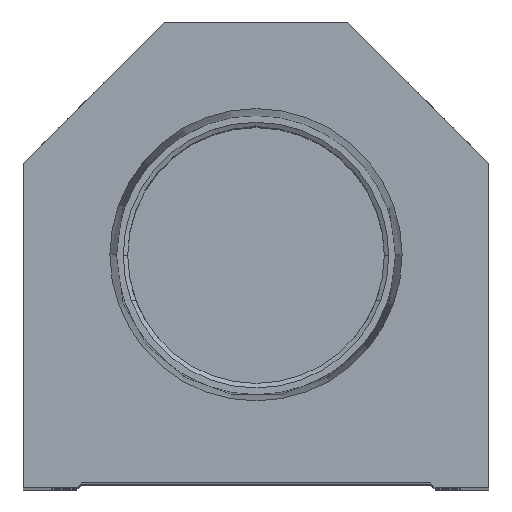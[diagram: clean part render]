
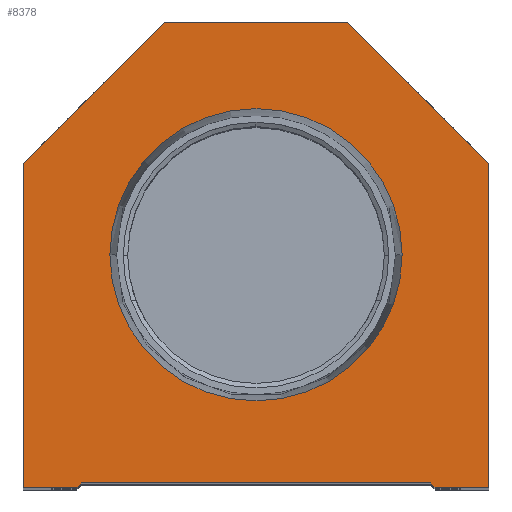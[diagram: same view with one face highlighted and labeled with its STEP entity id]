
A CAD part, top view. The second image highlights one B-rep face of the part: STEP entity #8378.
In plain terms, the highlighted planar face has unit normal (0, 0, 1).
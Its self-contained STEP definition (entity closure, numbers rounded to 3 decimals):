
#7 = VECTOR ( 'NONE', #3842, 1000. ) ;
#13 = ORIENTED_EDGE ( 'NONE', *, *, #9021, .T. ) ;
#217 = DIRECTION ( 'NONE',  ( 1., 0., 0. ) ) ;
#419 = EDGE_LOOP ( 'NONE', ( #22900, #17515, #16317, #14589, #13, #17213, #17950, #11608, #2583, #5436 ) ) ;
#487 = DIRECTION ( 'NONE',  ( -0.707, 0.707, 0. ) ) ;
#591 = VERTEX_POINT ( 'NONE', #15355 ) ;
#605 = LINE ( 'NONE', #22655, #4710 ) ;
#654 = LINE ( 'NONE', #23843, #5471 ) ;
#1038 = EDGE_CURVE ( 'NONE', #591, #1221, #14175, .T. ) ;
#1221 = VERTEX_POINT ( 'NONE', #18141 ) ;
#1441 = CARTESIAN_POINT ( 'NONE',  ( -25.4, 35.4, 0. ) ) ;
#1751 = DIRECTION ( 'NONE',  ( 0., 0., 1. ) ) ;
#2270 = FACE_BOUND ( 'NONE', #8041, .T. ) ;
#2327 = AXIS2_PLACEMENT_3D ( 'NONE', #8655, #20970, #4451 ) ;
#2583 = ORIENTED_EDGE ( 'NONE', *, *, #2643, .T. ) ;
#2643 = EDGE_CURVE ( 'NONE', #17086, #8966, #22090, .T. ) ;
#2841 = VERTEX_POINT ( 'NONE', #9145 ) ;
#2927 = VERTEX_POINT ( 'NONE', #5891 ) ;
#3312 = LINE ( 'NONE', #15862, #5505 ) ;
#3802 = DIRECTION ( 'NONE',  ( 0., -1., 0. ) ) ;
#3842 = DIRECTION ( 'NONE',  ( 1., 0., 0. ) ) ;
#4310 = DIRECTION ( 'NONE',  ( 0., 0., 1. ) ) ;
#4451 = DIRECTION ( 'NONE',  ( 1., 0., 0. ) ) ;
#4710 = VECTOR ( 'NONE', #487, 1000. ) ;
#5343 = VECTOR ( 'NONE', #9079, 1000. ) ;
#5436 = ORIENTED_EDGE ( 'NONE', *, *, #9284, .T. ) ;
#5471 = VECTOR ( 'NONE', #3802, 1000. ) ;
#5477 = AXIS2_PLACEMENT_3D ( 'NONE', #8858, #1751, #7416 ) ;
#5505 = VECTOR ( 'NONE', #23468, 1000. ) ;
#5891 = CARTESIAN_POINT ( 'NONE',  ( -19.55, 0., 0. ) ) ;
#6553 = CARTESIAN_POINT ( 'NONE',  ( 19.05, 0.5, 0. ) ) ;
#6783 = EDGE_CURVE ( 'NONE', #10943, #17086, #3312, .T. ) ;
#6951 = CARTESIAN_POINT ( 'NONE',  ( 25.4, 0., 0. ) ) ;
#7416 = DIRECTION ( 'NONE',  ( 1., 0., 0. ) ) ;
#7600 = VERTEX_POINT ( 'NONE', #18391 ) ;
#8041 = EDGE_LOOP ( 'NONE', ( #9254, #23242 ) ) ;
#8378 = ADVANCED_FACE ( 'NONE', ( #2270, #18788 ), #15296, .T. ) ;
#8655 = CARTESIAN_POINT ( 'NONE',  ( 0., 25.4, 0. ) ) ;
#8748 = AXIS2_PLACEMENT_3D ( 'NONE', #9494, #4310, #217 ) ;
#8858 = CARTESIAN_POINT ( 'NONE',  ( 0., 25.4, 0. ) ) ;
#8966 = VERTEX_POINT ( 'NONE', #1441 ) ;
#9021 = EDGE_CURVE ( 'NONE', #15866, #591, #15192, .T. ) ;
#9079 = DIRECTION ( 'NONE',  ( 0.707, 0.707, 0. ) ) ;
#9101 = VECTOR ( 'NONE', #15996, 1000. ) ;
#9145 = CARTESIAN_POINT ( 'NONE',  ( -15.947, 25.4, 0. ) ) ;
#9254 = ORIENTED_EDGE ( 'NONE', *, *, #15936, .F. ) ;
#9284 = EDGE_CURVE ( 'NONE', #8966, #13767, #654, .T. ) ;
#9308 = LINE ( 'NONE', #12930, #5343 ) ;
#9494 = CARTESIAN_POINT ( 'NONE',  ( 0., 0., 0. ) ) ;
#9719 = CIRCLE ( 'NONE', #5477, 15.947 ) ;
#9759 = EDGE_CURVE ( 'NONE', #1221, #10943, #605, .T. ) ;
#10440 = CARTESIAN_POINT ( 'NONE',  ( 19.55, 0., 0. ) ) ;
#10548 = VERTEX_POINT ( 'NONE', #6553 ) ;
#10792 = VECTOR ( 'NONE', #12446, 1000. ) ;
#10943 = VERTEX_POINT ( 'NONE', #15526 ) ;
#10944 = LINE ( 'NONE', #14666, #19789 ) ;
#11608 = ORIENTED_EDGE ( 'NONE', *, *, #6783, .T. ) ;
#12146 = EDGE_CURVE ( 'NONE', #10548, #15866, #10944, .T. ) ;
#12321 = CARTESIAN_POINT ( 'NONE',  ( -19.05, 0., 0. ) ) ;
#12446 = DIRECTION ( 'NONE',  ( 1., 0., 0. ) ) ;
#12930 = CARTESIAN_POINT ( 'NONE',  ( -9.775, 9.775, 0. ) ) ;
#13013 = CARTESIAN_POINT ( 'NONE',  ( 19.05, 0., 0. ) ) ;
#13020 = LINE ( 'NONE', #16643, #7 ) ;
#13153 = VERTEX_POINT ( 'NONE', #17074 ) ;
#13767 = VERTEX_POINT ( 'NONE', #17669 ) ;
#14175 = LINE ( 'NONE', #6951, #9101 ) ;
#14589 = ORIENTED_EDGE ( 'NONE', *, *, #12146, .T. ) ;
#14666 = CARTESIAN_POINT ( 'NONE',  ( 9.775, 9.775, 0. ) ) ;
#15192 = LINE ( 'NONE', #13013, #18954 ) ;
#15296 = PLANE ( 'NONE',  #8748 ) ;
#15355 = CARTESIAN_POINT ( 'NONE',  ( 25.4, 0., 0. ) ) ;
#15526 = CARTESIAN_POINT ( 'NONE',  ( 10., 50.8, 0. ) ) ;
#15862 = CARTESIAN_POINT ( 'NONE',  ( 10., 50.8, 0. ) ) ;
#15866 = VERTEX_POINT ( 'NONE', #10440 ) ;
#15936 = EDGE_CURVE ( 'NONE', #7600, #2841, #9719, .T. ) ;
#15996 = DIRECTION ( 'NONE',  ( 0., 1., 0. ) ) ;
#16316 = CARTESIAN_POINT ( 'NONE',  ( -25.4, 35.4, 0. ) ) ;
#16317 = ORIENTED_EDGE ( 'NONE', *, *, #22847, .T. ) ;
#16511 = DIRECTION ( 'NONE',  ( 1., 0., 0. ) ) ;
#16643 = CARTESIAN_POINT ( 'NONE',  ( -19.05, 0.5, 0. ) ) ;
#16713 = VECTOR ( 'NONE', #17988, 1000. ) ;
#17074 = CARTESIAN_POINT ( 'NONE',  ( -19.05, 0.5, 0. ) ) ;
#17086 = VERTEX_POINT ( 'NONE', #21977 ) ;
#17213 = ORIENTED_EDGE ( 'NONE', *, *, #1038, .T. ) ;
#17515 = ORIENTED_EDGE ( 'NONE', *, *, #17694, .T. ) ;
#17669 = CARTESIAN_POINT ( 'NONE',  ( -25.4, 0., 0. ) ) ;
#17694 = EDGE_CURVE ( 'NONE', #2927, #13153, #9308, .T. ) ;
#17950 = ORIENTED_EDGE ( 'NONE', *, *, #9759, .T. ) ;
#17988 = DIRECTION ( 'NONE',  ( -0.707, -0.707, 0. ) ) ;
#18138 = EDGE_CURVE ( 'NONE', #2841, #7600, #23110, .T. ) ;
#18141 = CARTESIAN_POINT ( 'NONE',  ( 25.4, 35.4, 0. ) ) ;
#18391 = CARTESIAN_POINT ( 'NONE',  ( 15.947, 25.4, 0. ) ) ;
#18788 = FACE_OUTER_BOUND ( 'NONE', #419, .T. ) ;
#18954 = VECTOR ( 'NONE', #16511, 1000. ) ;
#19789 = VECTOR ( 'NONE', #23486, 1000. ) ;
#20970 = DIRECTION ( 'NONE',  ( 0., 0., 1. ) ) ;
#21594 = LINE ( 'NONE', #12321, #10792 ) ;
#21977 = CARTESIAN_POINT ( 'NONE',  ( -10., 50.8, 0. ) ) ;
#22090 = LINE ( 'NONE', #16316, #16713 ) ;
#22655 = CARTESIAN_POINT ( 'NONE',  ( 25.4, 35.4, 0. ) ) ;
#22847 = EDGE_CURVE ( 'NONE', #13153, #10548, #13020, .T. ) ;
#22900 = ORIENTED_EDGE ( 'NONE', *, *, #23758, .T. ) ;
#23110 = CIRCLE ( 'NONE', #2327, 15.947 ) ;
#23242 = ORIENTED_EDGE ( 'NONE', *, *, #18138, .F. ) ;
#23468 = DIRECTION ( 'NONE',  ( -1., 0., 0. ) ) ;
#23486 = DIRECTION ( 'NONE',  ( 0.707, -0.707, 0. ) ) ;
#23758 = EDGE_CURVE ( 'NONE', #13767, #2927, #21594, .T. ) ;
#23843 = CARTESIAN_POINT ( 'NONE',  ( -25.4, 0., 0. ) ) ;
